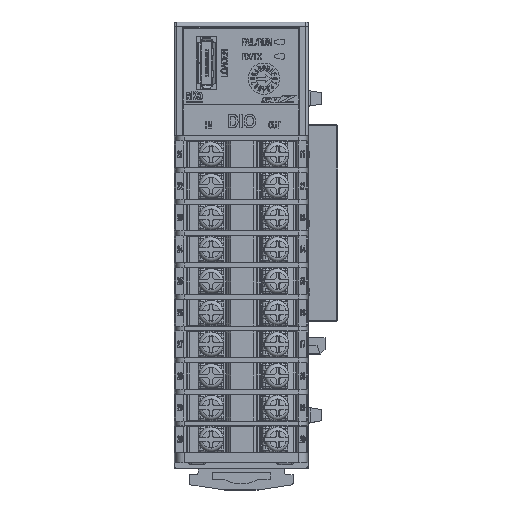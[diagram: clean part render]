
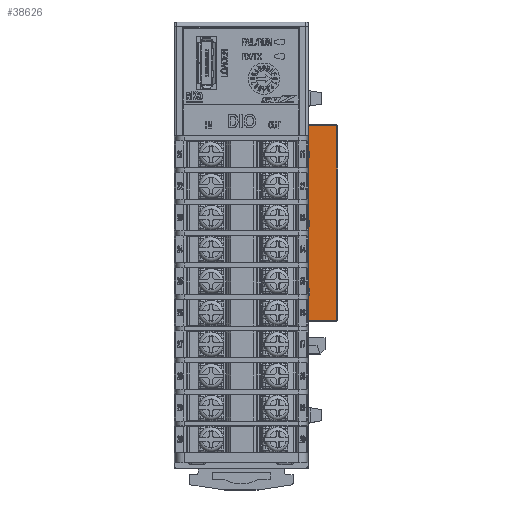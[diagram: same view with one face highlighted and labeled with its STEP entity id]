
A CAD part, top view. The second image highlights one B-rep face of the part: STEP entity #38626.
In plain terms, the highlighted planar face has unit normal (0, 0, 1).
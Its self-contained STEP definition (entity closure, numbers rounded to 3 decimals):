
#32 = LINE ( 'NONE', #14730, #206941 ) ;
#3593 = LINE ( 'NONE', #83079, #47559 ) ;
#4018 = ORIENTED_EDGE ( 'NONE', *, *, #51546, .F. ) ;
#4679 = CARTESIAN_POINT ( 'NONE',  ( 13.35, -11.1, 12.8 ) ) ;
#5862 = DIRECTION ( 'NONE',  ( 0., -1., 0. ) ) ;
#5885 = LINE ( 'NONE', #128412, #8718 ) ;
#6782 = DIRECTION ( 'NONE',  ( 0., -1., 0. ) ) ;
#6945 = LINE ( 'NONE', #137575, #48356 ) ;
#7666 = VERTEX_POINT ( 'NONE', #59106 ) ;
#8718 = VECTOR ( 'NONE', #36539, 1000. ) ;
#11198 = ORIENTED_EDGE ( 'NONE', *, *, #116273, .F. ) ;
#14730 = CARTESIAN_POINT ( 'NONE',  ( 15.35, 4.3, 12.8 ) ) ;
#14763 = VERTEX_POINT ( 'NONE', #241987 ) ;
#15580 = PLANE ( 'NONE',  #222318 ) ;
#17258 = VERTEX_POINT ( 'NONE', #226444 ) ;
#18727 = CARTESIAN_POINT ( 'NONE',  ( 15.35, 21.1, 12.8 ) ) ;
#18772 = VERTEX_POINT ( 'NONE', #209141 ) ;
#20402 = EDGE_CURVE ( 'NONE', #165534, #187559, #149775, .T. ) ;
#21586 = VERTEX_POINT ( 'NONE', #119821 ) ;
#21643 = CARTESIAN_POINT ( 'NONE',  ( 13.35, 26.85, 12.8 ) ) ;
#22593 = VECTOR ( 'NONE', #130573, 1000. ) ;
#25922 = VECTOR ( 'NONE', #79980, 1000. ) ;
#26028 = CARTESIAN_POINT ( 'NONE',  ( 15.35, 4.3, 12.8 ) ) ;
#26671 = CARTESIAN_POINT ( 'NONE',  ( 13.35, 19.7, 12.8 ) ) ;
#27799 = ORIENTED_EDGE ( 'NONE', *, *, #128891, .T. ) ;
#29962 = EDGE_CURVE ( 'NONE', #101909, #183395, #144148, .T. ) ;
#31788 = LINE ( 'NONE', #4679, #100047 ) ;
#34092 = VERTEX_POINT ( 'NONE', #18727 ) ;
#34642 = CARTESIAN_POINT ( 'NONE',  ( 15.35, 4.3, 12.8 ) ) ;
#34723 = VECTOR ( 'NONE', #226196, 1000. ) ;
#36539 = DIRECTION ( 'NONE',  ( 0., 1., 0. ) ) ;
#38626 = ADVANCED_FACE ( 'NONE', ( #216200 ), #15580, .F. ) ;
#42482 = DIRECTION ( 'NONE',  ( 0., -1., 0. ) ) ;
#44194 = CARTESIAN_POINT ( 'NONE',  ( 13.35, 27.05, 12.8 ) ) ;
#45517 = ORIENTED_EDGE ( 'NONE', *, *, #175358, .T. ) ;
#46198 = ORIENTED_EDGE ( 'NONE', *, *, #144340, .F. ) ;
#47559 = VECTOR ( 'NONE', #42482, 1000. ) ;
#48356 = VECTOR ( 'NONE', #140013, 1000. ) ;
#50648 = VERTEX_POINT ( 'NONE', #21643 ) ;
#51378 = VECTOR ( 'NONE', #215088, 1000. ) ;
#51546 = EDGE_CURVE ( 'NONE', #14763, #53393, #222746, .T. ) ;
#52856 = LINE ( 'NONE', #94358, #200625 ) ;
#53393 = VERTEX_POINT ( 'NONE', #135463 ) ;
#53550 = CARTESIAN_POINT ( 'NONE',  ( 21.45, 27.05, 12.8 ) ) ;
#57177 = ORIENTED_EDGE ( 'NONE', *, *, #138578, .F. ) ;
#59106 = CARTESIAN_POINT ( 'NONE',  ( 15.35, -11.1, 12.8 ) ) ;
#70917 = ORIENTED_EDGE ( 'NONE', *, *, #173651, .T. ) ;
#70986 = DIRECTION ( 'NONE',  ( 0., 1., 0. ) ) ;
#70990 = CARTESIAN_POINT ( 'NONE',  ( 13.35, 5.7, 12.8 ) ) ;
#72627 = CARTESIAN_POINT ( 'NONE',  ( 21.65, -17.05, 12.8 ) ) ;
#74800 = CARTESIAN_POINT ( 'NONE',  ( 13.35, 4.3, 12.8 ) ) ;
#75415 = VECTOR ( 'NONE', #112820, 1000. ) ;
#79980 = DIRECTION ( 'NONE',  ( -1., 0., 0. ) ) ;
#81806 = CARTESIAN_POINT ( 'NONE',  ( 15.35, 5.7, 12.8 ) ) ;
#83079 = CARTESIAN_POINT ( 'NONE',  ( 13.35, 27.05, 12.8 ) ) ;
#88504 = ORIENTED_EDGE ( 'NONE', *, *, #115516, .F. ) ;
#90845 = DIRECTION ( 'NONE',  ( 0., 1., 0. ) ) ;
#94358 = CARTESIAN_POINT ( 'NONE',  ( 13.35, 21.1, 12.8 ) ) ;
#99440 = CARTESIAN_POINT ( 'NONE',  ( 13.35, 27.05, 12.8 ) ) ;
#100047 = VECTOR ( 'NONE', #150858, 1000. ) ;
#101909 = VERTEX_POINT ( 'NONE', #70990 ) ;
#108444 = VECTOR ( 'NONE', #132362, 1000. ) ;
#109863 = EDGE_LOOP ( 'NONE', ( #237393, #70917, #159721, #4018, #45517, #135546, #11198, #57177, #203100, #115959, #46198, #88504, #229144, #230124, #218569, #27799 ) ) ;
#111735 = VECTOR ( 'NONE', #6782, 1000. ) ;
#112820 = DIRECTION ( 'NONE',  ( 0., -1., 0. ) ) ;
#114747 = CARTESIAN_POINT ( 'NONE',  ( 13.35, -11.1, 12.8 ) ) ;
#115516 = EDGE_CURVE ( 'NONE', #214574, #7666, #31788, .T. ) ;
#115959 = ORIENTED_EDGE ( 'NONE', *, *, #161099, .T. ) ;
#116273 = EDGE_CURVE ( 'NONE', #187819, #183395, #179400, .T. ) ;
#119224 = EDGE_CURVE ( 'NONE', #34092, #53393, #119841, .T. ) ;
#119821 = CARTESIAN_POINT ( 'NONE',  ( 15.35, -9.7, 12.8 ) ) ;
#119841 = LINE ( 'NONE', #168942, #75415 ) ;
#128067 = CARTESIAN_POINT ( 'NONE',  ( 13.35, -16.85, 12.8 ) ) ;
#128412 = CARTESIAN_POINT ( 'NONE',  ( 15.35, -11.1, 12.8 ) ) ;
#128891 = EDGE_CURVE ( 'NONE', #176267, #50648, #209187, .T. ) ;
#130573 = DIRECTION ( 'NONE',  ( 0., 1., 0. ) ) ;
#131082 = CARTESIAN_POINT ( 'NONE',  ( 15.35, 5.7, 12.8 ) ) ;
#132231 = EDGE_CURVE ( 'NONE', #50648, #18772, #172862, .T. ) ;
#132362 = DIRECTION ( 'NONE',  ( 1., 0., 0. ) ) ;
#135463 = CARTESIAN_POINT ( 'NONE',  ( 15.35, 19.7, 12.8 ) ) ;
#135546 = ORIENTED_EDGE ( 'NONE', *, *, #29962, .T. ) ;
#137575 = CARTESIAN_POINT ( 'NONE',  ( 13.35, -9.7, 12.8 ) ) ;
#138578 = EDGE_CURVE ( 'NONE', #168847, #187819, #32, .T. ) ;
#140013 = DIRECTION ( 'NONE',  ( 1., 0., 0. ) ) ;
#142577 = CARTESIAN_POINT ( 'NONE',  ( 21.45, 26.85, 12.8 ) ) ;
#142831 = VECTOR ( 'NONE', #70986, 1000. ) ;
#144148 = LINE ( 'NONE', #81806, #34723 ) ;
#144340 = EDGE_CURVE ( 'NONE', #7666, #21586, #5885, .T. ) ;
#149775 = LINE ( 'NONE', #244687, #108444 ) ;
#150858 = DIRECTION ( 'NONE',  ( 1., 0., 0. ) ) ;
#155577 = LINE ( 'NONE', #177692, #167469 ) ;
#159721 = ORIENTED_EDGE ( 'NONE', *, *, #119224, .T. ) ;
#161099 = EDGE_CURVE ( 'NONE', #17258, #21586, #6945, .T. ) ;
#164119 = EDGE_CURVE ( 'NONE', #187559, #176267, #225461, .T. ) ;
#165534 = VERTEX_POINT ( 'NONE', #128067 ) ;
#167469 = VECTOR ( 'NONE', #5862, 1000. ) ;
#168847 = VERTEX_POINT ( 'NONE', #74800 ) ;
#168942 = CARTESIAN_POINT ( 'NONE',  ( 15.35, 21.1, 12.8 ) ) ;
#171152 = EDGE_CURVE ( 'NONE', #168847, #17258, #3593, .T. ) ;
#172862 = LINE ( 'NONE', #44194, #243676 ) ;
#173651 = EDGE_CURVE ( 'NONE', #18772, #34092, #52856, .T. ) ;
#175358 = EDGE_CURVE ( 'NONE', #14763, #101909, #155577, .T. ) ;
#176267 = VERTEX_POINT ( 'NONE', #142577 ) ;
#177692 = CARTESIAN_POINT ( 'NONE',  ( 13.35, 27.05, 12.8 ) ) ;
#179400 = LINE ( 'NONE', #34642, #22593 ) ;
#183395 = VERTEX_POINT ( 'NONE', #131082 ) ;
#187559 = VERTEX_POINT ( 'NONE', #236396 ) ;
#187819 = VERTEX_POINT ( 'NONE', #26028 ) ;
#191489 = CARTESIAN_POINT ( 'NONE',  ( 21.65, 26.85, 12.8 ) ) ;
#193675 = EDGE_CURVE ( 'NONE', #214574, #165534, #238652, .T. ) ;
#200625 = VECTOR ( 'NONE', #208239, 1000. ) ;
#203100 = ORIENTED_EDGE ( 'NONE', *, *, #171152, .T. ) ;
#204705 = DIRECTION ( 'NONE',  ( 0., 0., -1. ) ) ;
#206286 = DIRECTION ( 'NONE',  ( 1., 0., 0. ) ) ;
#206941 = VECTOR ( 'NONE', #206286, 1000. ) ;
#208239 = DIRECTION ( 'NONE',  ( 1., 0., 0. ) ) ;
#209141 = CARTESIAN_POINT ( 'NONE',  ( 13.35, 21.1, 12.8 ) ) ;
#209187 = LINE ( 'NONE', #191489, #25922 ) ;
#214574 = VERTEX_POINT ( 'NONE', #114747 ) ;
#215088 = DIRECTION ( 'NONE',  ( 1., 0., 0. ) ) ;
#215222 = DIRECTION ( 'NONE',  ( 0., -1., 0. ) ) ;
#216200 = FACE_OUTER_BOUND ( 'NONE', #109863, .T. ) ;
#218569 = ORIENTED_EDGE ( 'NONE', *, *, #164119, .T. ) ;
#222318 = AXIS2_PLACEMENT_3D ( 'NONE', #72627, #204705, #90845 ) ;
#222746 = LINE ( 'NONE', #26671, #51378 ) ;
#225461 = LINE ( 'NONE', #53550, #142831 ) ;
#226196 = DIRECTION ( 'NONE',  ( 1., 0., 0. ) ) ;
#226444 = CARTESIAN_POINT ( 'NONE',  ( 13.35, -9.7, 12.8 ) ) ;
#229144 = ORIENTED_EDGE ( 'NONE', *, *, #193675, .T. ) ;
#230124 = ORIENTED_EDGE ( 'NONE', *, *, #20402, .T. ) ;
#236396 = CARTESIAN_POINT ( 'NONE',  ( 21.45, -16.85, 12.8 ) ) ;
#237393 = ORIENTED_EDGE ( 'NONE', *, *, #132231, .T. ) ;
#238652 = LINE ( 'NONE', #99440, #111735 ) ;
#241987 = CARTESIAN_POINT ( 'NONE',  ( 13.35, 19.7, 12.8 ) ) ;
#243676 = VECTOR ( 'NONE', #215222, 1000. ) ;
#244687 = CARTESIAN_POINT ( 'NONE',  ( 21.65, -16.85, 12.8 ) ) ;
